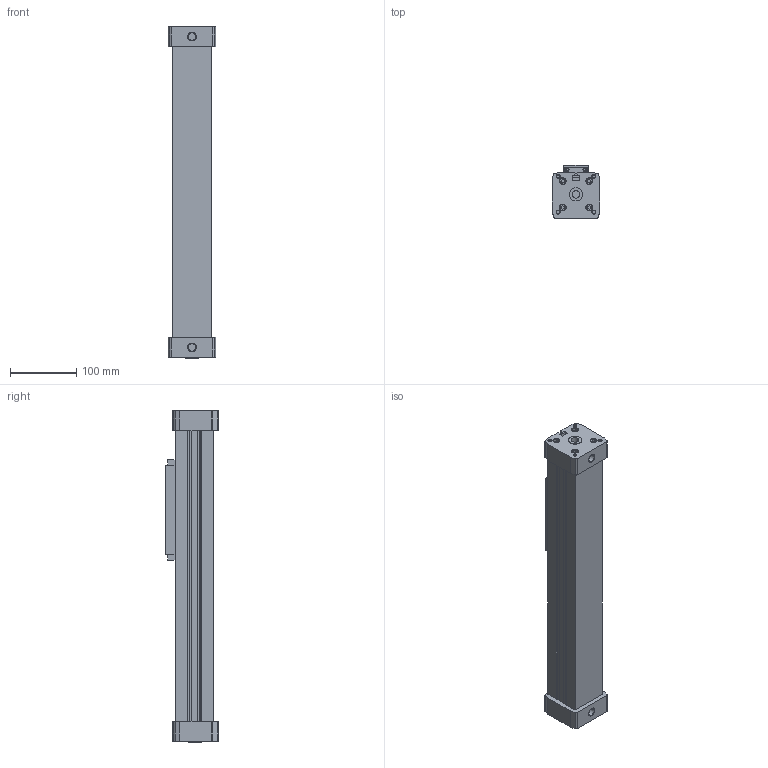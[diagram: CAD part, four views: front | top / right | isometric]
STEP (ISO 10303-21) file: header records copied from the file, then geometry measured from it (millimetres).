
FILE_DESCRIPTION (( 'STEP AP203' ), '1' );
FILE_NAME ('RLF40.0200.STEP', '2005-12-19T16:49:25', ( 'Vesta Automation srl' ), ( 'Vesta Automation srl' ), 'SwSTEP 2.0', 'SolidWorks 2005187', '' );
FILE_SCHEMA (( 'CONFIG_CONTROL_DESIGN' ));
Products named in the file (6): CARRIAGE-RLFØ40; RLF40.0200; FRONT END CAP-RLFØ40; REAR END CAP-RLFØ40; SEALING BAND-RLFØ40_STROKE 0200; BARREL-RLFØ40_STROKE 0200
Assembly tree (5 placements, depth 2):
  RLF40.0200
    SEALING BAND-RLFØ40_STROKE 0200
    CARRIAGE-RLFØ40
    REAR END CAP-RLFØ40
    FRONT END CAP-RLFØ40
    BARREL-RLFØ40_STROKE 0200
Bounding box: 72 x 80 x 502 mm (x, y, z)
Volume: 1526346.5 mm3; surface area: 292472.8 mm2
Topology: 5 solids, 5 shells, 1569 faces, 3490 edges, 2024 vertices
Faces by surface type: cone 940, plane 438, cylinder 191
Entity records: 43264 total; most frequent: DIRECTION 8020, CARTESIAN_POINT 7091, ORIENTED_EDGE 6980, EDGE_CURVE 3490, AXIS2_PLACEMENT_3D 2953, LINE 2114, VECTOR 2114, VERTEX_POINT 2024
